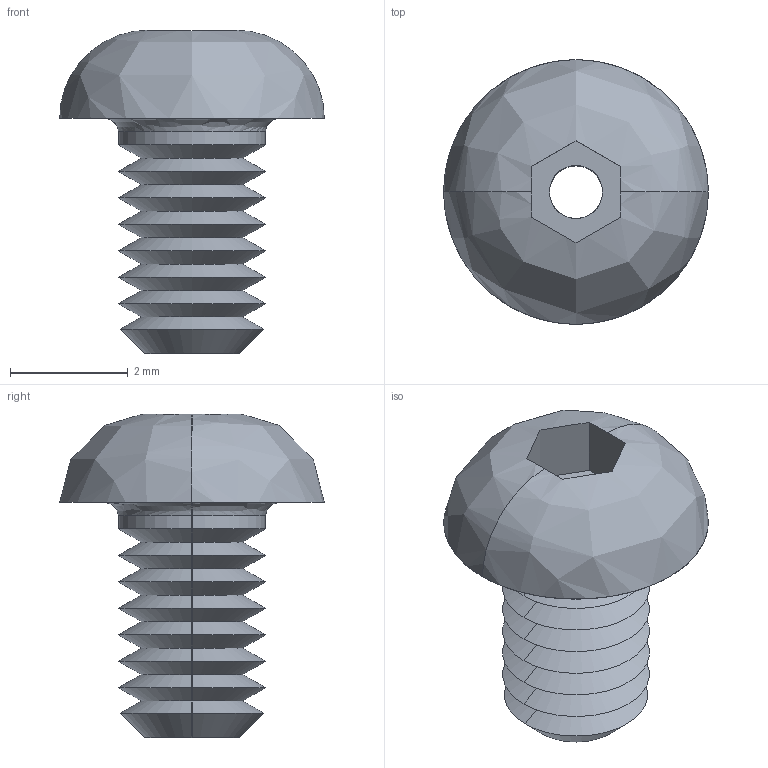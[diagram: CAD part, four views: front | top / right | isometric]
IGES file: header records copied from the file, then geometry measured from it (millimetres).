
Start section: SolidWorks IGES file using analytic representation for surfaces
Global section: file name: C:\Users\liam_\OneDrive\Documents\WORK\Work for WixRoyd\Job Files\J-00019 - Matt Davis CAD Checking\04. CAD Drawings\automotion20190605\P0094_v2\P0094_v2_20190712_IGES\P0094.025-004-A2.igs; native system: SolidWorks 2017; preprocessor: SolidWorks 2017; author: liam_; date: 190712.175002; units: millimetre
Bounding box: 4.5 x 4.5 x 5.5 mm (x, y, z)
Surface area: 104.7 mm2 (no closed solid volume)
Topology: 0 solids, 0 shells, 47 faces, 334 edges, 334 vertices
Faces by surface type: revolution 34, bspline 13
